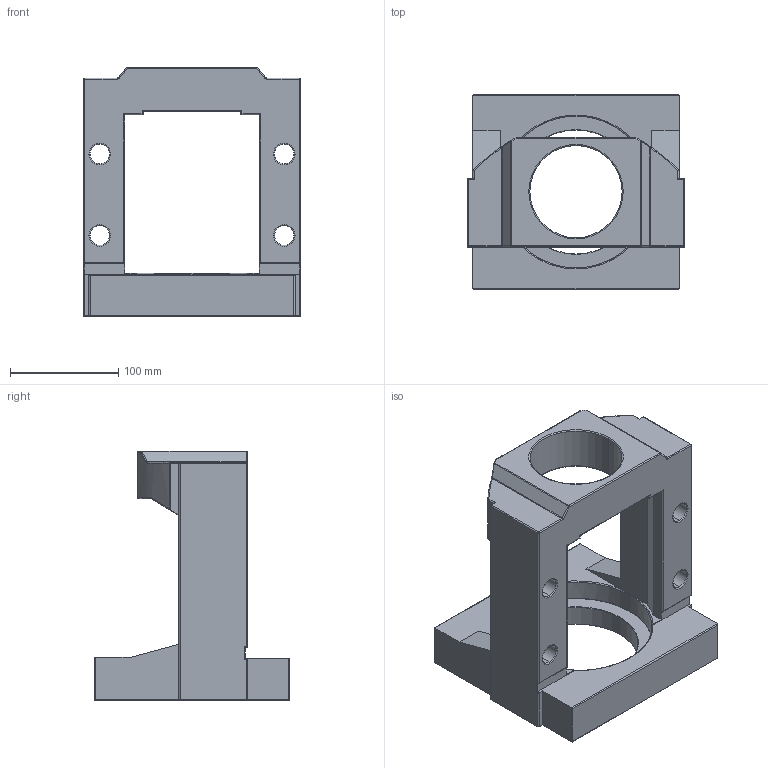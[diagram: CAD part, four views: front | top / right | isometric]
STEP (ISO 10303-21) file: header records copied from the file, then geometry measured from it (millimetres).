
FILE_DESCRIPTION (( 'STEP AP214' ), '1' );
FILE_NAME ('MBB30-H.STEP', '2012-02-10T05:27:11', ( '' ), ( '' ), 'SwSTEP 2.0', 'SolidWorks 2011', '' );
FILE_SCHEMA (( 'AUTOMOTIVE_DESIGN' ));
Length unit declared in the file: millimetre
Products named in the file (1): MBB30-H
Bounding box: 200 x 180 x 230 mm (x, y, z)
Volume: 1903334.5 mm3; surface area: 244173.3 mm2
Topology: 2 solids, 2 shells, 292 faces, 706 edges, 384 vertices
Faces by surface type: cylinder 126, plane 50, cone 46, torus 36, sphere 24, bspline 10
Entity records: 11579 total; most frequent: CARTESIAN_POINT 1765, DIRECTION 1470, ORIENTED_EDGE 1316, EDGE_CURVE 658, AXIS2_PLACEMENT_3D 587, VERTEX_POINT 384, EDGE_LOOP 322, CIRCLE 304
